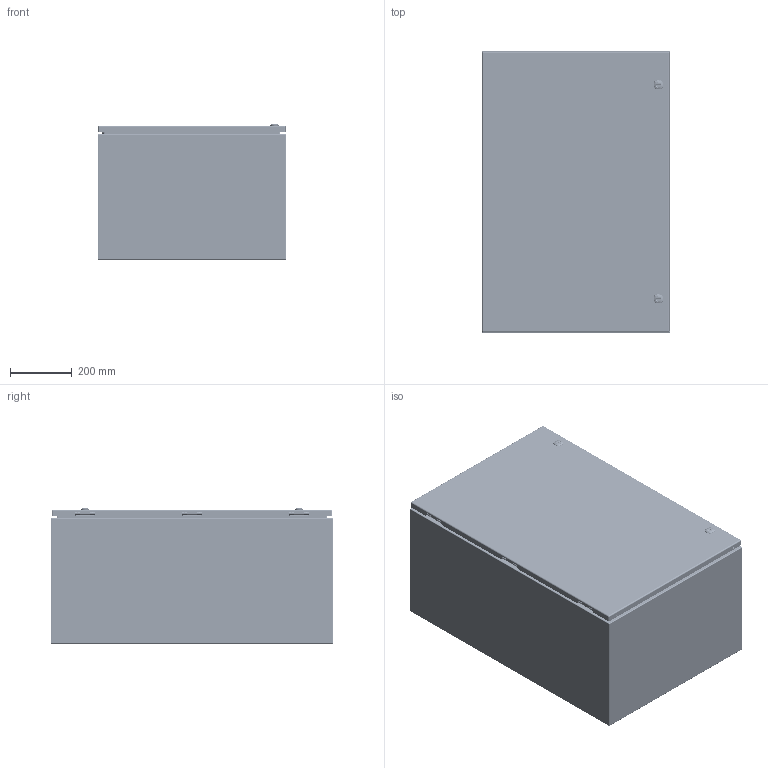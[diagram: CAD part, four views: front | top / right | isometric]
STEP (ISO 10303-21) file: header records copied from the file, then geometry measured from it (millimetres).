
FILE_DESCRIPTION(/* description */ ('5412ES 36" x 24" x 16" Assembly'),/* implementation_level */ '2;1');
FILE_NAME(/* name */ 'C:\Vault_Workspace\Inventor_Dwg\BoxCad\Result\5412ESB362416\e-mail\3D\5412ESB362416.stp',/* time_stamp */ '2022-03-19T02:37:47-04:00',/* author */ ('BoxCad'),/* organization */ (''),/* preprocessor_version */ 'ST-DEVELOPER v18.1',/* originating_system */ 'Autodesk Inventor 2020',/* authorisation */ '');
FILE_SCHEMA (('AUTOMOTIVE_DESIGN { 1 0 10303 214 3 1 1 }'));
Products named in the file (46): 5412ESB362416; 5412ESB362416B; 5412ESB362416B-P; STK-Q-16005; STUD_M6 x 16mm; STK-Q-07610; 881SP3624G; 881SP3624G-P; STK-Q-07310; 5412ESB362416C; 5412ESB362416C-P; 5412ESB362416G; STK-K-09800; STK-K-09800-2; STK-K-09800-3; STK-Q-33014; STK-Q-90398; STK-Q-40095; STK-Q-63410; STK-Q-16055; STK-Q-46020-36; STK-Q-07220-1; STK-Q-07220-2; STK-Q-07220-3; STK-Q-07220-4; STK-Q-07220-A; STK-Q-07220-B; STK-P-03820R; STK-S-00100; STK-A-880SCQ4-SL-1; STK-A-880SCQ4-SL-2; STK-Q-78110; STK-Q-78120; STK-Q-78145; STK-Q-03200; STK-Q-78125; STK-Q-78141; STK-Q-90390; STK-Q-78160; STK-Q-04050-07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
Assembly tree (97 placements, depth 4):
  5412ESB362416
    5412ESB362416B
      5412ESB362416B-P
      STK-Q-16005  x6
      STK-P-03820R
      STUD_M6 x 16mm
    STK-Q-07610  x6
    881SP3624G
      881SP3624G-P
    STK-Q-07310  x6
    5412ESB362416C
      5412ESB362416C-P
      5412ESB362416G
      STK-K-09800
        STK-Q-33014
        STK-Q-90398
        STK-Q-40095  x2
        STK-Q-63410  x2
      STK-K-09800-2
        STK-Q-33014
        STK-Q-90398
        STK-Q-40095  x2
        STK-Q-63410  x2
      STK-K-09800-3
        STK-Q-33014
        STK-Q-90398
        STK-Q-40095  x2
        STK-Q-63410  x2
      STK-Q-16055  x4
      STK-Q-46020-36  x2
      STK-Q-07220-1
        STK-Q-07220-A
        STK-Q-07220-B
      STK-Q-07220-2
        STK-Q-07220-A
        STK-Q-07220-B
      STK-Q-07220-3
        STK-Q-07220-A
        STK-Q-07220-B
      STK-Q-07220-4
        STK-Q-07220-A
        STK-Q-07220-B
      STK-P-03820R
      STK-S-00100
      STK-A-880SCQ4-SL-1
        STK-Q-78110
        STK-Q-78120
        STK-Q-78145
        STK-Q-03200
        STK-Q-78125
        STK-Q-78141
        STK-Q-90390
        STK-Q-78160
      STK-A-880SCQ4-SL-2
        STK-Q-78110
        STK-Q-78120
        STK-Q-78145
        STK-Q-03200
        STK-Q-78125
        STK-Q-78141
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Bounding box: 609.67 x 914.4 x 439.17 mm (x, y, z)
Volume: 5306209.4 mm3; surface area: 6418884.4 mm2
Topology: 78 solids, 78 shells, 12196 faces, 32780 edges, 20842 vertices
Faces by surface type: bspline 4333, plane 3345, cylinder 3220, torus 858, sphere 222, cone 218
Full cylindrical faces by diameter (mm): 0 x1, 0.75 x11, 0.762 x11, 1 x12, 1.1 x12, 3.2 x6, 4.191 x64, 4.5 x4, 4.521 x12, 4.75 x3, 4.85 x24, 4.95 x6, 5 x4, 5.1 x37, 5.156 x4, 5.6 x3, 5.9 x35, 6.015 x64, 6.65 x6, 6.8 x4, 6.85 x24, 7.3 x3, 7.366 x4, 7.9 x10, 8 x14, 8.382 x3, 9.5 x4, 9.6 x2, 9.906 x4, 10 x2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
Entity records: 158262 total; most frequent: CARTESIAN_POINT 64456, ORIENTED_EDGE 21338, DIRECTION 15787, EDGE_CURVE 10669, VERTEX_POINT 6763, AXIS2_PLACEMENT_3D 5830, EDGE_LOOP 4390, LINE 4127
